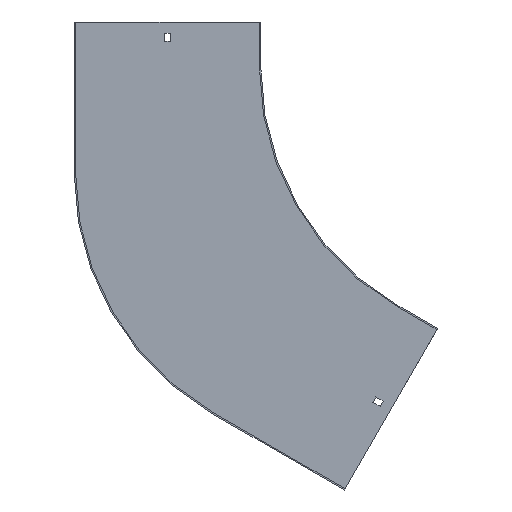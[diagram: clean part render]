
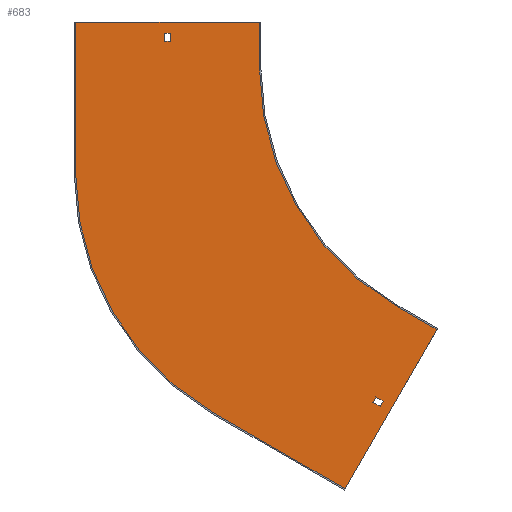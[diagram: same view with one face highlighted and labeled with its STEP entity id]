
A CAD part, front view. The second image highlights one B-rep face of the part: STEP entity #683.
In plain terms, the highlighted planar face has unit normal (0, -1, 0).
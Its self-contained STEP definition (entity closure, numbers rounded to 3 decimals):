
#1 = LINE ( 'NONE', #257, #808 ) ;
#3 = CARTESIAN_POINT ( 'NONE',  ( -168.716, -1.5, -368.225 ) ) ;
#9 = VERTEX_POINT ( 'NONE', #228 ) ;
#15 = LINE ( 'NONE', #192, #806 ) ;
#17 = LINE ( 'NONE', #800, #451 ) ;
#18 = CIRCLE ( 'NONE', #215, 300. ) ;
#23 = ORIENTED_EDGE ( 'NONE', *, *, #422, .F. ) ;
#24 = CARTESIAN_POINT ( 'NONE',  ( -350., -1.5, -375.278 ) ) ;
#29 = LINE ( 'NONE', #637, #576 ) ;
#30 = CARTESIAN_POINT ( 'NONE',  ( 25.115, -1.5, -14.5 ) ) ;
#32 = DIRECTION ( 'NONE',  ( 0., -1., 0. ) ) ;
#40 = ORIENTED_EDGE ( 'NONE', *, *, #486, .T. ) ;
#47 = CARTESIAN_POINT ( 'NONE',  ( -403.25, -1.5, 29. ) ) ;
#48 = VERTEX_POINT ( 'NONE', #380 ) ;
#57 = CARTESIAN_POINT ( 'NONE',  ( -396.75, -1.5, 38. ) ) ;
#64 = VECTOR ( 'NONE', #725, 1000. ) ;
#75 = CARTESIAN_POINT ( 'NONE',  ( -403.25, -1.5, 38. ) ) ;
#76 = EDGE_CURVE ( 'NONE', #210, #234, #797, .T. ) ;
#81 = VERTEX_POINT ( 'NONE', #3 ) ;
#86 = DIRECTION ( 'NONE',  ( 0., 0., 1. ) ) ;
#91 = CARTESIAN_POINT ( 'NONE',  ( -200., -1.5, -115.47 ) ) ;
#103 = DIRECTION ( 'NONE',  ( 0., -1., 0. ) ) ;
#108 = DIRECTION ( 'NONE',  ( 0., 0., -1. ) ) ;
#137 = VECTOR ( 'NONE', #829, 1000. ) ;
#141 = FACE_BOUND ( 'NONE', #848, .T. ) ;
#142 = EDGE_CURVE ( 'NONE', #81, #210, #15, .T. ) ;
#146 = ORIENTED_EDGE ( 'NONE', *, *, #629, .T. ) ;
#182 = CARTESIAN_POINT ( 'NONE',  ( 0., -1.5, 29. ) ) ;
#187 = AXIS2_PLACEMENT_3D ( 'NONE', #777, #103, #286 ) ;
#192 = CARTESIAN_POINT ( 'NONE',  ( 32.909, -1.5, -19. ) ) ;
#202 = EDGE_LOOP ( 'NONE', ( #771, #798, #325, #582, #833, #493, #237, #294 ) ) ;
#203 = EDGE_CURVE ( 'NONE', #532, #737, #335, .T. ) ;
#206 = CARTESIAN_POINT ( 'NONE',  ( -300., -1.5, 0. ) ) ;
#210 = VERTEX_POINT ( 'NONE', #592 ) ;
#215 = AXIS2_PLACEMENT_3D ( 'NONE', #91, #704, #278 ) ;
#228 = CARTESIAN_POINT ( 'NONE',  ( -150., -1.5, -259.808 ) ) ;
#230 = LINE ( 'NONE', #509, #468 ) ;
#234 = VERTEX_POINT ( 'NONE', #339 ) ;
#237 = ORIENTED_EDGE ( 'NONE', *, *, #600, .F. ) ;
#239 = FACE_OUTER_BOUND ( 'NONE', #202, .T. ) ;
#257 = CARTESIAN_POINT ( 'NONE',  ( -150., -1.5, -259.808 ) ) ;
#270 = ORIENTED_EDGE ( 'NONE', *, *, #142, .F. ) ;
#278 = DIRECTION ( 'NONE',  ( 0., 0., -1. ) ) ;
#281 = CARTESIAN_POINT ( 'NONE',  ( 0., -1.5, 0. ) ) ;
#286 = DIRECTION ( 'NONE',  ( 0., 0., -1. ) ) ;
#290 = VERTEX_POINT ( 'NONE', #840 ) ;
#294 = ORIENTED_EDGE ( 'NONE', *, *, #649, .F. ) ;
#317 = ORIENTED_EDGE ( 'NONE', *, *, #203, .T. ) ;
#324 = CIRCLE ( 'NONE', #351, 300. ) ;
#325 = ORIENTED_EDGE ( 'NONE', *, *, #694, .F. ) ;
#335 = LINE ( 'NONE', #182, #772 ) ;
#339 = CARTESIAN_POINT ( 'NONE',  ( -173.26, -1.5, -358.096 ) ) ;
#340 = DIRECTION ( 'NONE',  ( 0., 0., -1. ) ) ;
#346 = ORIENTED_EDGE ( 'NONE', *, *, #561, .T. ) ;
#351 = AXIS2_PLACEMENT_3D ( 'NONE', #281, #32, #556 ) ;
#352 = EDGE_CURVE ( 'NONE', #538, #415, #571, .T. ) ;
#353 = CARTESIAN_POINT ( 'NONE',  ( -396.75, -1.5, 29. ) ) ;
#362 = FACE_BOUND ( 'NONE', #718, .T. ) ;
#375 = VERTEX_POINT ( 'NONE', #769 ) ;
#380 = CARTESIAN_POINT ( 'NONE',  ( -176.51, -1.5, -363.725 ) ) ;
#381 = LINE ( 'NONE', #802, #64 ) ;
#398 = CARTESIAN_POINT ( 'NONE',  ( -206.699, -1.5, -458.013 ) ) ;
#400 = EDGE_CURVE ( 'NONE', #415, #375, #230, .T. ) ;
#402 = CARTESIAN_POINT ( 'NONE',  ( -403.25, -1.5, 0. ) ) ;
#415 = VERTEX_POINT ( 'NONE', #852 ) ;
#421 = ORIENTED_EDGE ( 'NONE', *, *, #76, .F. ) ;
#422 = EDGE_CURVE ( 'NONE', #234, #48, #824, .T. ) ;
#435 = DIRECTION ( 'NONE',  ( 1., 0., 0. ) ) ;
#449 = DIRECTION ( 'NONE',  ( -1., 0., 0. ) ) ;
#451 = VECTOR ( 'NONE', #340, 1000. ) ;
#454 = CARTESIAN_POINT ( 'NONE',  ( -201.625, -1.5, -349.225 ) ) ;
#460 = DIRECTION ( 'NONE',  ( 0.866, 0., -0.5 ) ) ;
#468 = VECTOR ( 'NONE', #435, 1000. ) ;
#469 = VECTOR ( 'NONE', #609, 1000. ) ;
#486 = EDGE_CURVE ( 'NONE', #595, #759, #563, .T. ) ;
#493 = ORIENTED_EDGE ( 'NONE', *, *, #663, .F. ) ;
#495 = DIRECTION ( 'NONE',  ( 1., 0., 0. ) ) ;
#501 = VERTEX_POINT ( 'NONE', #206 ) ;
#509 = CARTESIAN_POINT ( 'NONE',  ( -501.5, -1.5, 50. ) ) ;
#524 = EDGE_CURVE ( 'NONE', #48, #81, #714, .T. ) ;
#530 = DIRECTION ( 'NONE',  ( -0.866, 0., 0.5 ) ) ;
#532 = VERTEX_POINT ( 'NONE', #353 ) ;
#536 = LINE ( 'NONE', #398, #822 ) ;
#538 = VERTEX_POINT ( 'NONE', #818 ) ;
#539 = VECTOR ( 'NONE', #858, 1000. ) ;
#556 = DIRECTION ( 'NONE',  ( 0., 0., -1. ) ) ;
#559 = VECTOR ( 'NONE', #86, 1000. ) ;
#561 = EDGE_CURVE ( 'NONE', #737, #595, #675, .T. ) ;
#563 = LINE ( 'NONE', #834, #669 ) ;
#567 = VERTEX_POINT ( 'NONE', #573 ) ;
#571 = LINE ( 'NONE', #856, #559 ) ;
#573 = CARTESIAN_POINT ( 'NONE',  ( -106.699, -1.5, -284.808 ) ) ;
#576 = VECTOR ( 'NONE', #108, 1000. ) ;
#581 = CARTESIAN_POINT ( 'NONE',  ( -198.375, -1.5, -343.596 ) ) ;
#582 = ORIENTED_EDGE ( 'NONE', *, *, #817, .F. ) ;
#592 = CARTESIAN_POINT ( 'NONE',  ( -165.466, -1.5, -362.596 ) ) ;
#595 = VERTEX_POINT ( 'NONE', #75 ) ;
#600 = EDGE_CURVE ( 'NONE', #501, #9, #324, .T. ) ;
#601 = VERTEX_POINT ( 'NONE', #24 ) ;
#609 = DIRECTION ( 'NONE',  ( 0.866, 0., -0.5 ) ) ;
#629 = EDGE_CURVE ( 'NONE', #759, #532, #29, .T. ) ;
#637 = CARTESIAN_POINT ( 'NONE',  ( -396.75, -1.5, 0. ) ) ;
#649 = EDGE_CURVE ( 'NONE', #375, #501, #17, .T. ) ;
#663 = EDGE_CURVE ( 'NONE', #9, #567, #1, .T. ) ;
#669 = VECTOR ( 'NONE', #495, 1000. ) ;
#675 = LINE ( 'NONE', #402, #860 ) ;
#683 = ADVANCED_FACE ( 'NONE', ( #362, #239, #141 ), #691, .T. ) ;
#691 = PLANE ( 'NONE',  #187 ) ;
#694 = EDGE_CURVE ( 'NONE', #601, #538, #18, .T. ) ;
#704 = DIRECTION ( 'NONE',  ( 0., 1., 0. ) ) ;
#714 = LINE ( 'NONE', #454, #469 ) ;
#718 = EDGE_LOOP ( 'NONE', ( #421, #270, #855, #23 ) ) ;
#725 = DIRECTION ( 'NONE',  ( -0.5, 0., -0.866 ) ) ;
#737 = VERTEX_POINT ( 'NONE', #47 ) ;
#745 = DIRECTION ( 'NONE',  ( 0., 0., 1. ) ) ;
#759 = VERTEX_POINT ( 'NONE', #57 ) ;
#769 = CARTESIAN_POINT ( 'NONE',  ( -300., -1.5, 50. ) ) ;
#771 = ORIENTED_EDGE ( 'NONE', *, *, #400, .F. ) ;
#772 = VECTOR ( 'NONE', #449, 1000. ) ;
#777 = CARTESIAN_POINT ( 'NONE',  ( 0., -1.5, 0. ) ) ;
#796 = DIRECTION ( 'NONE',  ( 0.5, 0., 0.866 ) ) ;
#797 = LINE ( 'NONE', #581, #539 ) ;
#798 = ORIENTED_EDGE ( 'NONE', *, *, #352, .F. ) ;
#800 = CARTESIAN_POINT ( 'NONE',  ( -300., -1.5, 50. ) ) ;
#802 = CARTESIAN_POINT ( 'NONE',  ( -105.949, -1.5, -283.509 ) ) ;
#806 = VECTOR ( 'NONE', #796, 1000. ) ;
#808 = VECTOR ( 'NONE', #460, 1000. ) ;
#817 = EDGE_CURVE ( 'NONE', #290, #601, #536, .T. ) ;
#818 = CARTESIAN_POINT ( 'NONE',  ( -500., -1.5, -115.47 ) ) ;
#822 = VECTOR ( 'NONE', #530, 1000. ) ;
#824 = LINE ( 'NONE', #30, #137 ) ;
#827 = EDGE_CURVE ( 'NONE', #567, #290, #381, .T. ) ;
#829 = DIRECTION ( 'NONE',  ( -0.5, 0., -0.866 ) ) ;
#833 = ORIENTED_EDGE ( 'NONE', *, *, #827, .F. ) ;
#834 = CARTESIAN_POINT ( 'NONE',  ( 0., -1.5, 38. ) ) ;
#840 = CARTESIAN_POINT ( 'NONE',  ( -206.699, -1.5, -458.013 ) ) ;
#848 = EDGE_LOOP ( 'NONE', ( #40, #146, #317, #346 ) ) ;
#852 = CARTESIAN_POINT ( 'NONE',  ( -500., -1.5, 50. ) ) ;
#855 = ORIENTED_EDGE ( 'NONE', *, *, #524, .F. ) ;
#856 = CARTESIAN_POINT ( 'NONE',  ( -500., -1.5, -115.47 ) ) ;
#858 = DIRECTION ( 'NONE',  ( -0.866, 0., 0.5 ) ) ;
#860 = VECTOR ( 'NONE', #745, 1000. ) ;
